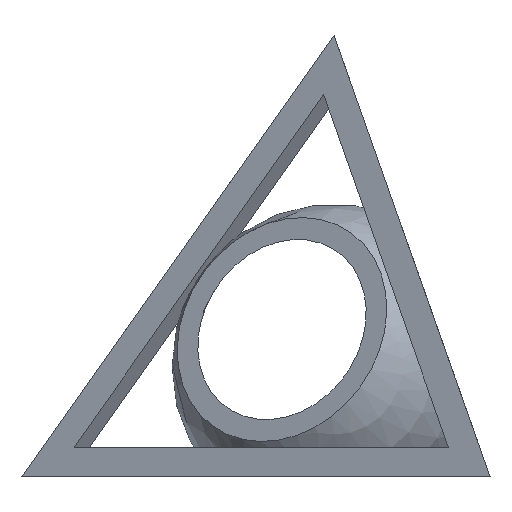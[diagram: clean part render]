
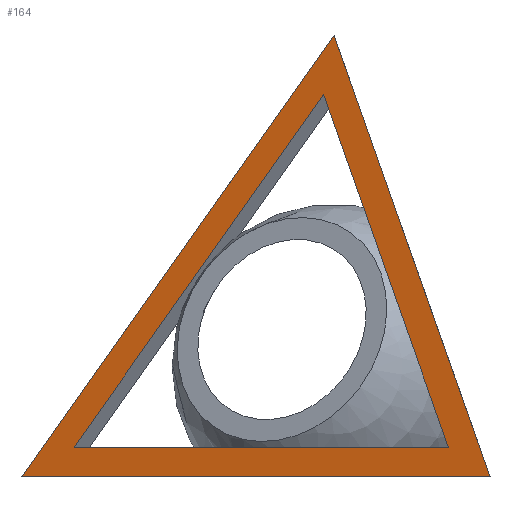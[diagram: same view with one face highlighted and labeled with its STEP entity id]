
A CAD part, left-side view. The second image highlights one B-rep face of the part: STEP entity #164.
In plain terms, the highlighted planar face has unit normal (-0.817, 0.471, 0.333).
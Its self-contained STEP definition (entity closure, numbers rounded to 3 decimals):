
#164=ADVANCED_FACE('',(#393,#395),#397,.T.);
#393=FACE_BOUND('',#394,.T.);
#394=EDGE_LOOP('',(#553,#554,#555));
#395=FACE_BOUND('',#396,.T.);
#396=EDGE_LOOP('',(#556,#557,#558));
#397=PLANE('',#398);
#398=AXIS2_PLACEMENT_3D('',#399,#400,#401);
#399=CARTESIAN_POINT('',(0.,57.735,0.));
#400=DIRECTION('',(-0.816,0.471,0.333));
#401=DIRECTION('',(-0.5,-0.866,0.));
#553=ORIENTED_EDGE('',*,*,#664,.T.);
#554=ORIENTED_EDGE('',*,*,#639,.F.);
#555=ORIENTED_EDGE('',*,*,#668,.F.);
#556=ORIENTED_EDGE('',*,*,#672,.T.);
#557=ORIENTED_EDGE('',*,*,#673,.T.);
#558=ORIENTED_EDGE('',*,*,#674,.T.);
#639=EDGE_CURVE('',#702,#699,#704,.T.);
#664=EDGE_CURVE('',#751,#699,#753,.T.);
#668=EDGE_CURVE('',#751,#702,#760,.T.);
#672=EDGE_CURVE('',#767,#768,#769,.F.);
#673=EDGE_CURVE('',#768,#770,#771,.F.);
#674=EDGE_CURVE('',#770,#767,#772,.F.);
#699=VERTEX_POINT('',#801);
#702=VERTEX_POINT('',#806);
#704=LINE('',#810,#811);
#751=VERTEX_POINT('',#925);
#753=LINE('',#929,#930);
#760=LINE('',#944,#945);
#767=VERTEX_POINT('',#959);
#768=VERTEX_POINT('',#960);
#769=LINE('',#961,#962);
#770=VERTEX_POINT('',#964);
#771=LINE('',#965,#966);
#772=LINE('',#968,#969);
#801=CARTESIAN_POINT('',(0.,57.735,0.));
#806=CARTESIAN_POINT('',(-50.,-28.868,0.));
#810=CARTESIAN_POINT('',(-50.,-28.868,0.));
#811=VECTOR('',#812,1.);
#812=DIRECTION('',(0.5,0.866,0.));
#925=CARTESIAN_POINT('',(0.,0.,81.65));
#929=CARTESIAN_POINT('',(0.,0.,81.65));
#930=VECTOR('',#931,1.);
#931=DIRECTION('',(0.,0.577,-0.816));
#944=CARTESIAN_POINT('',(0.,0.,81.65));
#945=VECTOR('',#946,1.);
#946=DIRECTION('',(-0.5,-0.289,-0.816));
#959=CARTESIAN_POINT('',(-43.333,-21.17,5.443));
#960=CARTESIAN_POINT('',(-3.333,48.113,5.443));
#961=CARTESIAN_POINT('',(-3.333,48.113,5.443));
#962=VECTOR('',#963,1.);
#963=DIRECTION('',(-0.5,-0.866,0.));
#964=CARTESIAN_POINT('',(-3.333,1.925,70.763));
#965=CARTESIAN_POINT('',(-3.333,1.925,70.763));
#966=VECTOR('',#967,1.);
#967=DIRECTION('',(0.,0.577,-0.816));
#968=CARTESIAN_POINT('',(-43.333,-21.17,5.443));
#969=VECTOR('',#970,1.);
#970=DIRECTION('',(0.5,0.289,0.816));
